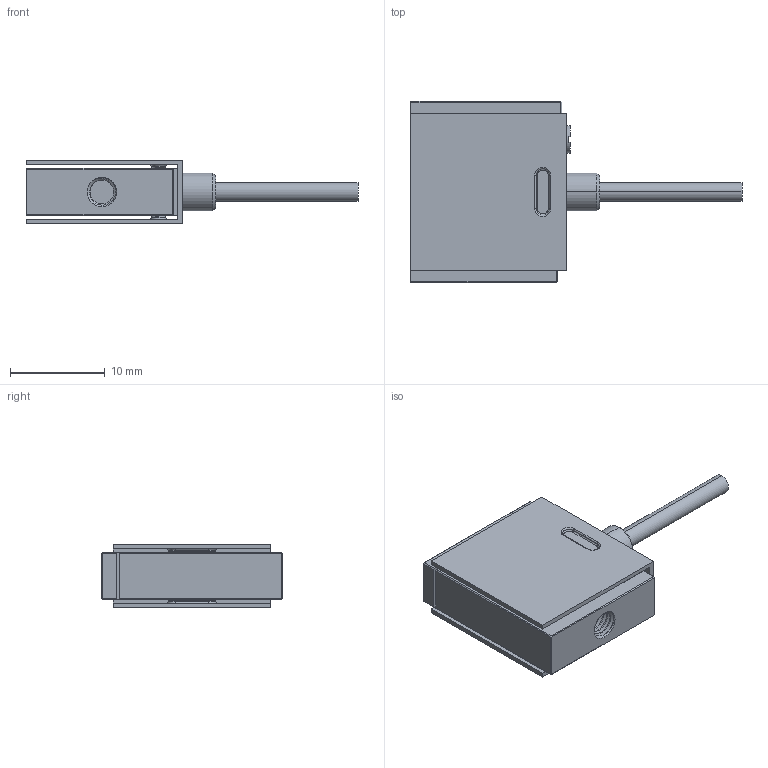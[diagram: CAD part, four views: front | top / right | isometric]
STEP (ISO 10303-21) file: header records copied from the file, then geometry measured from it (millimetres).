
FILE_DESCRIPTION (( 'STEP AP203' ), '1' );
FILE_NAME ('LCS07(5-20N).STEP', '2024-07-16T04:48:05', ( '' ), ( '' ), 'SwSTEP 2.0', 'SolidWorks 2019', '' );
FILE_SCHEMA (( 'CONFIG_CONTROL_DESIGN' ));
Length unit declared in the file: millimetre
Products named in the file (1): LCS07(5-20N)
Bounding box: 35 x 19.1 x 6.7 mm (x, y, z)
Volume: 1807.9 mm3; surface area: 2734.9 mm2
Topology: 1 solids, 1 shells, 187 faces, 468 edges, 290 vertices
Faces by surface type: plane 83, cylinder 74, torus 16, cone 8, bspline 6
Entity records: 7783 total; most frequent: CARTESIAN_POINT 3432, ORIENTED_EDGE 936, DIRECTION 854, EDGE_CURVE 468, VERTEX_POINT 290, AXIS2_PLACEMENT_3D 290, VECTOR 274, LINE 274
